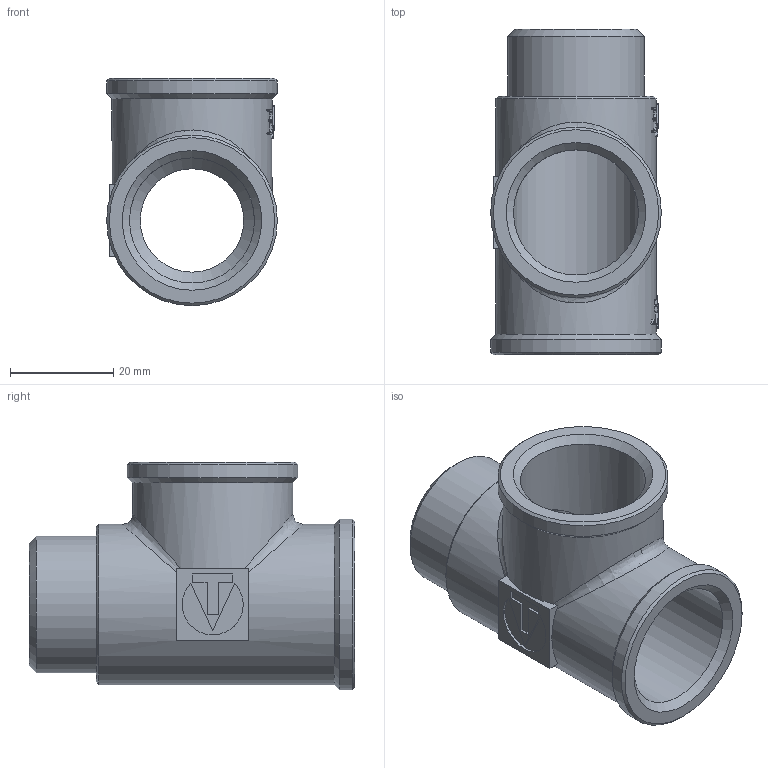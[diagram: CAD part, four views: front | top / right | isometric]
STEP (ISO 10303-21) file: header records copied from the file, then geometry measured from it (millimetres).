
FILE_DESCRIPTION(('STEP AP203'), '1');
FILE_NAME('ÂÐ.752249.011 - VTr.134.N.0005 - Ôèò. ðåçüá. òðîé', '2024-06-26T06:28:01', ('Boss'), (''), 'C3D Converter', 'C3D Toolkit', '');
FILE_SCHEMA(('CONFIG_CONTROL_DESIGN'));
Length unit declared in the file: millimetre
Products named in the file (1): ВР.752249.011
Bounding box: 33 x 63 x 44 mm (x, y, z)
Volume: 21737 mm3; surface area: 13476.9 mm2
Topology: 1 solids, 1 shells, 369 faces, 1040 edges, 688 vertices
Faces by surface type: extrusion 207, plane 126, cylinder 24, cone 10, bspline 2
Full cylindrical faces by diameter (mm): 20 x1, 24.2 x2, 26.441 x1, 31 x2, 33 x2
Entity records: 16587 total; most frequent: CARTESIAN_POINT 8189, ORIENTED_EDGE 2036, DIRECTION 1097, EDGE_CURVE 1018, VERTEX_POINT 688, B_SPLINE_CURVE_WITH_KNOTS 630, VECTOR 607, EDGE_LOOP 410
